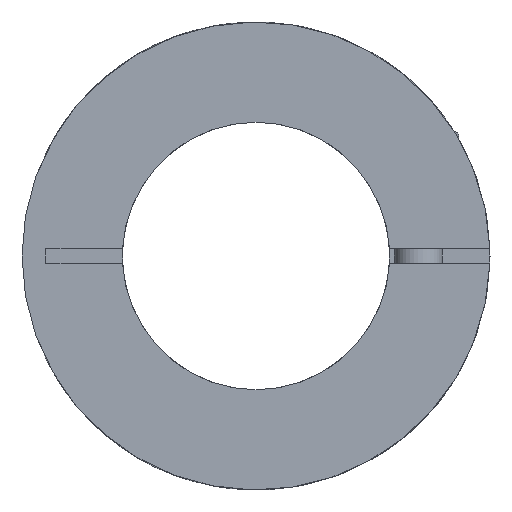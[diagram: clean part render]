
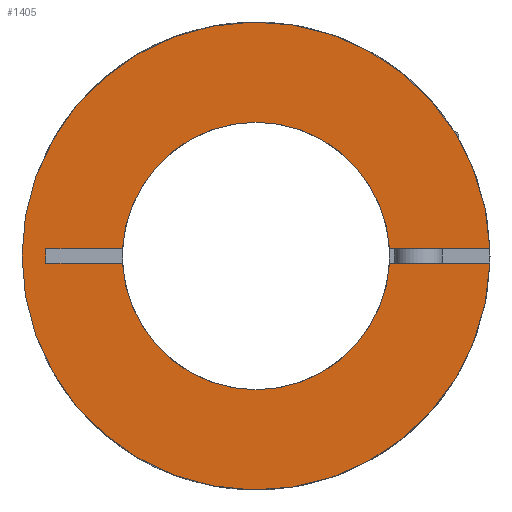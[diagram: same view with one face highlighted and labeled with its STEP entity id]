
A CAD part, left-side view. The second image highlights one B-rep face of the part: STEP entity #1405.
In plain terms, the highlighted planar face has unit normal (-1, 0, 0).
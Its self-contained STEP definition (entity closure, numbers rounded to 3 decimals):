
#37=PLANE('',#1612);
#131=LINE('',#2544,#220);
#135=LINE('',#2550,#224);
#146=LINE('',#2571,#235);
#147=LINE('',#2574,#236);
#170=LINE('',#2622,#259);
#220=VECTOR('',#1945,18.071);
#224=VECTOR('',#1953,20.559);
#235=VECTOR('',#1974,20.559);
#236=VECTOR('',#1977,18.071);
#259=VECTOR('',#2026,1.5);
#347=FACE_OUTER_BOUND('',#440,.T.);
#440=EDGE_LOOP('',(#1215,#1216,#1217,#1218,#1219,#1220,#1221,#1222));
#572=CIRCLE('',#1563,24.5);
#587=CIRCLE('',#1584,14.);
#590=CIRCLE('',#1588,14.);
#672=VERTEX_POINT('',#2426);
#673=VERTEX_POINT('',#2428);
#695=VERTEX_POINT('',#2520);
#696=VERTEX_POINT('',#2522);
#699=VERTEX_POINT('',#2531);
#700=VERTEX_POINT('',#2532);
#704=VERTEX_POINT('',#2542);
#710=VERTEX_POINT('',#2573);
#838=EDGE_CURVE('',#673,#672,#572,.T.);
#865=EDGE_CURVE('',#696,#695,#587,.T.);
#870=EDGE_CURVE('',#699,#700,#590,.T.);
#876=EDGE_CURVE('',#704,#695,#131,.T.);
#880=EDGE_CURVE('',#700,#673,#135,.T.);
#891=EDGE_CURVE('',#672,#696,#146,.T.);
#892=EDGE_CURVE('',#710,#699,#147,.T.);
#915=EDGE_CURVE('',#710,#704,#170,.T.);
#1215=ORIENTED_EDGE('',*,*,#865,.T.);
#1216=ORIENTED_EDGE('',*,*,#876,.F.);
#1217=ORIENTED_EDGE('',*,*,#915,.F.);
#1218=ORIENTED_EDGE('',*,*,#892,.T.);
#1219=ORIENTED_EDGE('',*,*,#870,.T.);
#1220=ORIENTED_EDGE('',*,*,#880,.T.);
#1221=ORIENTED_EDGE('',*,*,#838,.T.);
#1222=ORIENTED_EDGE('',*,*,#891,.T.);
#1405=ADVANCED_FACE('',(#347),#37,.T.);
#1563=AXIS2_PLACEMENT_3D('',#2429,#1873,#1874);
#1584=AXIS2_PLACEMENT_3D('',#2523,#1925,#1926);
#1588=AXIS2_PLACEMENT_3D('',#2533,#1935,#1936);
#1612=AXIS2_PLACEMENT_3D('',#2623,#2027,#2028);
#1873=DIRECTION('center_axis',(-1.,0.,0.));
#1874=DIRECTION('ref_axis',(0.,1.,0.));
#1925=DIRECTION('center_axis',(1.,0.,0.));
#1926=DIRECTION('ref_axis',(0.,0.,-1.));
#1935=DIRECTION('center_axis',(1.,0.,0.));
#1936=DIRECTION('ref_axis',(0.,0.,-1.));
#1945=DIRECTION('',(0.,-1.,0.));
#1953=DIRECTION('',(0.,-1.,0.));
#1974=DIRECTION('',(0.,1.,0.));
#1977=DIRECTION('',(0.,-1.,0.));
#2026=DIRECTION('',(0.,0.,-1.));
#2027=DIRECTION('center_axis',(-1.,0.,0.));
#2028=DIRECTION('ref_axis',(0.,-1.,0.));
#2426=CARTESIAN_POINT('',(0.,-24.489,-0.75));
#2428=CARTESIAN_POINT('',(0.,-24.489,0.75));
#2429=CARTESIAN_POINT('Origin',(0.,0.,0.));
#2520=CARTESIAN_POINT('',(0.,13.98,-0.75));
#2522=CARTESIAN_POINT('',(0.,-13.98,-0.75));
#2523=CARTESIAN_POINT('Origin',(0.,0.,0.));
#2531=CARTESIAN_POINT('',(0.,13.98,0.75));
#2532=CARTESIAN_POINT('',(0.,-13.98,0.75));
#2533=CARTESIAN_POINT('Origin',(0.,0.,0.));
#2542=CARTESIAN_POINT('',(0.,22.,-0.75));
#2544=CARTESIAN_POINT('',(0.,22.,-0.75));
#2550=CARTESIAN_POINT('',(0.,-3.929,0.75));
#2571=CARTESIAN_POINT('',(0.,-24.489,-0.75));
#2573=CARTESIAN_POINT('',(0.,22.,0.75));
#2574=CARTESIAN_POINT('',(0.,22.,0.75));
#2622=CARTESIAN_POINT('',(0.,22.,0.75));
#2623=CARTESIAN_POINT('Origin',(0.,0.,-4.));
